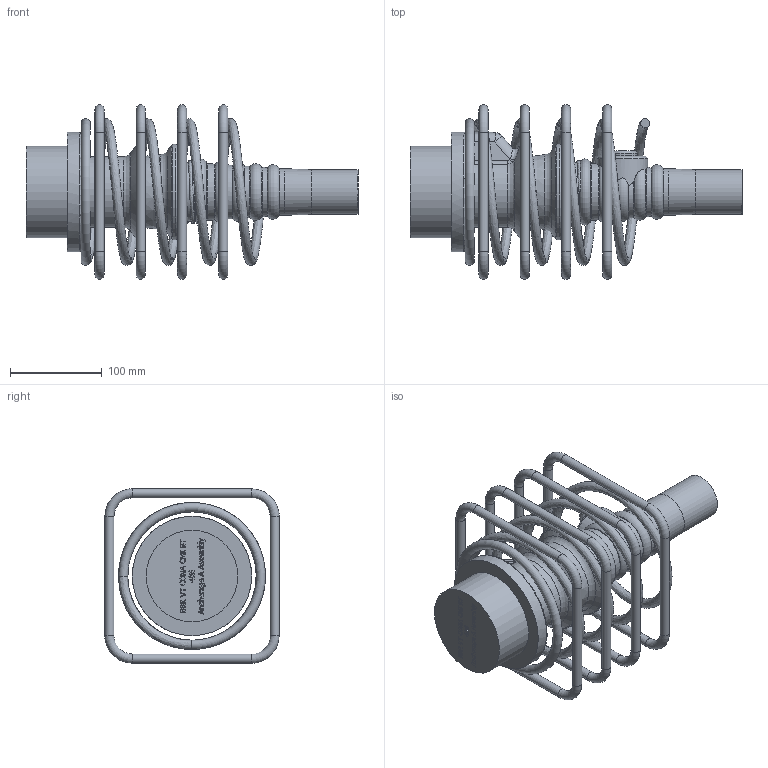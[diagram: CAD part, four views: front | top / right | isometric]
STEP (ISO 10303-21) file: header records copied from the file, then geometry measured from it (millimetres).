
FILE_DESCRIPTION(/* description */ (''),/* implementation_level */ '2;1');
FILE_NAME(/* name */ 'Z:\04 Publications\05 Give-out\BBR\6_3D_Models\BBR VT CONA CMI\BBR VT CONA CMI BT\00406\BBR VT CONA CMI BT 406_Anchorage A Assembly_CS-34,28.stp',/* time_stamp */ '2017-05-04T16:16:13+02:00',/* author */ ('IP'),/* organization */ (''),/* preprocessor_version */ 'ST-DEVELOPER v16.1',/* originating_system */ 'Autodesk Inventor 2016',/* authorisation */ '');
FILE_SCHEMA (('AUTOMOTIVE_DESIGN { 1 0 10303 214 3 1 1 }'));
Length unit declared in the file: millimetre
Products named in the file (1): BBR VT CONA CMI BT 406_Anchorage A Assembly_CS-34,28
Bounding box: 361.87 x 190 x 190 mm (x, y, z)
Volume: 2111746.8 mm3; surface area: 284615.6 mm2
Topology: 6 solids, 6 shells, 728 faces, 1899 edges, 1230 vertices
Faces by surface type: plane 323, bspline 313, torus 49, cylinder 33, cone 10
Full cylindrical faces by diameter (mm): 10 x16, 32 x1, 49 x1, 55 x1, 100 x1, 104 x2, 130 x1
Entity records: 27708 total; most frequent: CARTESIAN_POINT 11441, ORIENTED_EDGE 3654, DIRECTION 2180, EDGE_CURVE 1827, VERTEX_POINT 1224, LINE 1052, VECTOR 1052, EDGE_LOOP 849
